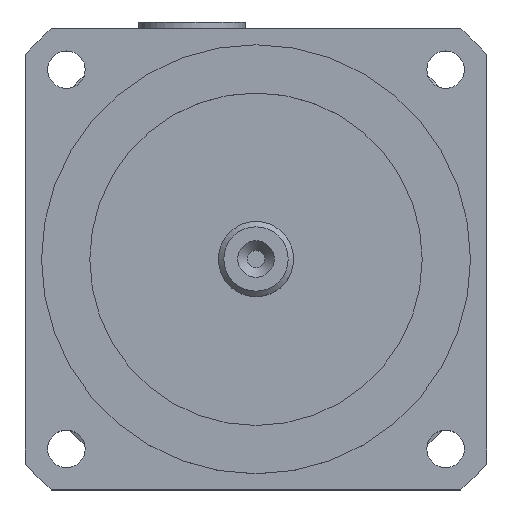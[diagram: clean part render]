
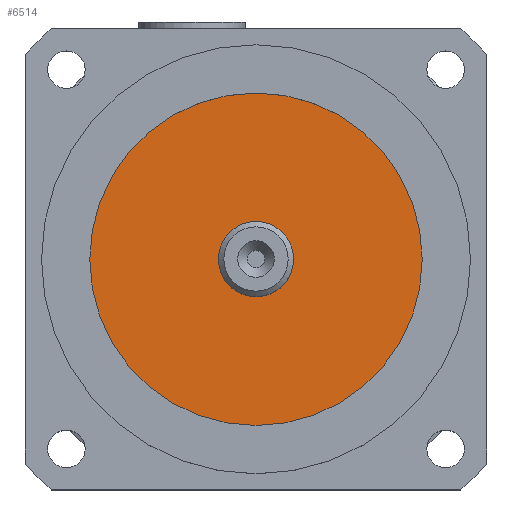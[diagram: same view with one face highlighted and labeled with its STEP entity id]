
A CAD part, top view. The second image highlights one B-rep face of the part: STEP entity #6514.
In plain terms, the highlighted planar face has unit normal (0, 0, 1).
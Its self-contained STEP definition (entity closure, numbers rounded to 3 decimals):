
#2646=VERTEX_POINT('',#9459);
#2655=VERTEX_POINT('',#9551);
#3104=CIRCLE('',#7057,7.);
#3113=CIRCLE('',#7068,31.);
#3510=EDGE_CURVE('',#2646,#2646,#3104,.T.);
#3519=EDGE_CURVE('',#2655,#2655,#3113,.T.);
#4414=ORIENTED_EDGE('',*,*,#3519,.T.);
#4415=ORIENTED_EDGE('',*,*,#3510,.T.);
#5660=EDGE_LOOP('',(#4414));
#5661=EDGE_LOOP('',(#4415));
#6106=FACE_BOUND('',#5660,.T.);
#6107=FACE_BOUND('',#5661,.T.);
#6514=ADVANCED_FACE('',(#6106,#6107),#8030,.F.);
#7057=AXIS2_PLACEMENT_3D('',#9458,#12973,#12974);
#7068=AXIS2_PLACEMENT_3D('',#9550,#12994,#12995);
#7070=AXIS2_PLACEMENT_3D('',#9554,#12998,$);
#8030=PLANE('',#7070);
#9458=CARTESIAN_POINT('',(0.,0.,137.5));
#9459=CARTESIAN_POINT('',(7.,0.,137.5));
#9550=CARTESIAN_POINT('',(0.,0.,137.5));
#9551=CARTESIAN_POINT('',(31.,0.,137.5));
#9554=CARTESIAN_POINT('',(0.,0.,137.5));
#12973=DIRECTION('',(0.,0.,-1.));
#12974=DIRECTION('',(-7.,0.,0.));
#12994=DIRECTION('',(0.,0.,1.));
#12995=DIRECTION('',(-31.,0.,0.));
#12998=DIRECTION('',(0.,0.,-1.));
